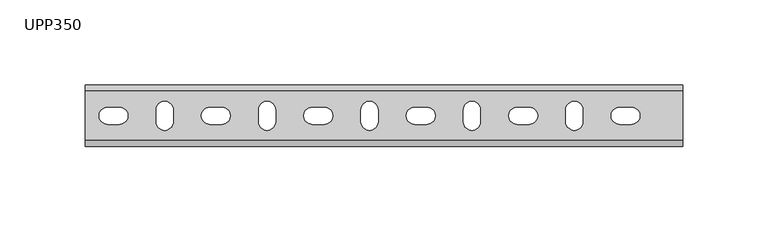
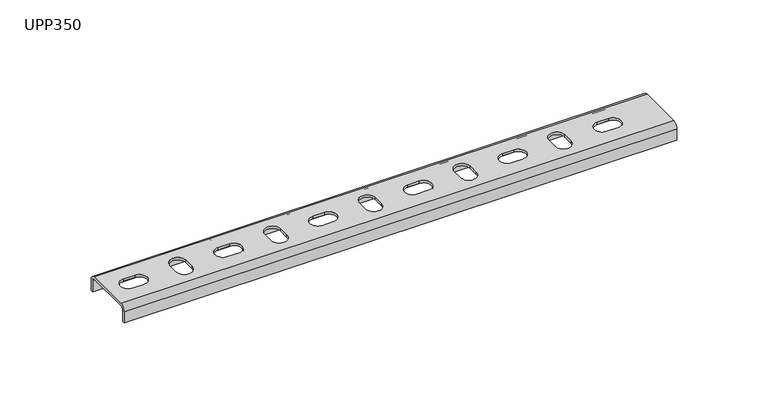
"""IFC4 building model written with IfcOpenShell, lengths in millimetres: proxy geometry, КМ Профиль_Универсальный поддерживающий профиль UPP : UPP350."""

from ifc_helpers import new_model, si_unit, frame, origin, place, context, project, spatial, polyline, circle_curve, source, transform, mapped, element, save
from ifc_brep_helpers import plane_surface, cylinder_surface, revolved_surface, advanced_brep


def upp350_077b014d(model_context):
    return source(origin(), model_context, "Body", "AdvancedBrep", [
        advanced_brep(
        [(0.0, 16.5, -3.5), (0.0, 14.5, -1.5), (0.0, -14.5, -1.5), (0.0, -16.5, -3.5), (0.0, -16.5, -11.0), (0.0, -18.0, -11.0), (0.0, -18.0, -3.5), (0.0, -14.5, 0.0), (0.0, 14.5, 0.0), (0.0, 18.0, -3.5), (0.0, 18.0, -11.0), (0.0, 16.5, -11.0), (350.0, 14.5, -1.5), (350.0, 16.5, -3.5), (350.0, 16.5, -11.0), (350.0, 18.0, -11.0), (350.0, 18.0, -3.5), (350.0, 14.5, 0.0), (350.0, -14.5, 0.0), (350.0, -18.0, -3.5), (350.0, -18.0, -11.0), (350.0, -16.5, -11.0), (350.0, -16.5, -3.5), (350.0, -14.5, -1.5), (80.0, 5.0, -1.5), (73.0, 5.0, -1.5), (73.0, -5.0, -1.5), (80.0, -5.0, -1.5), (140.0, 5.0, -1.5), (133.0, 5.0, -1.5), (133.0, -5.0, -1.5), (140.0, -5.0, -1.5), (101.5, 3.5, -1.5), (101.5, -3.5, -1.5), (111.5, -3.5, -1.5), (111.5, 3.5, -1.5), (200.0, 5.0, -1.5), (193.0, 5.0, -1.5), (193.0, -5.0, -1.5), (200.0, -5.0, -1.5), (260.0, 5.0, -1.5), (253.0, 5.0, -1.5), (253.0, -5.0, -1.5), (260.0, -5.0, -1.5), (320.0, 5.0, -1.5), (313.0, 5.0, -1.5), (313.0, -5.0, -1.5), (320.0, -5.0, -1.5), (161.5, 3.5, -1.5), (161.5, -3.5, -1.5), (171.5, -3.5, -1.5), (171.5, 3.5, -1.5), (221.5, 3.5, -1.5), (221.5, -3.5, -1.5), (231.5, -3.5, -1.5), (231.5, 3.5, -1.5), (281.5, 3.5, -1.5), (281.5, -3.5, -1.5), (291.5, -3.5, -1.5), (291.5, 3.5, -1.5), (41.5, 3.5, -1.5), (41.5, -3.5, -1.5), (51.5, -3.5, -1.5), (51.5, 3.5, -1.5), (20.0, 5.0, -1.5), (13.0, 5.0, -1.5), (13.0, -5.0, -1.5), (20.0, -5.0, -1.5), (73.0, 5.0, 0.0), (80.0, 5.0, 0.0), (80.0, -5.0, 0.0), (73.0, -5.0, 0.0), (133.0, 5.0, 0.0), (140.0, 5.0, 0.0), (140.0, -5.0, 0.0), (133.0, -5.0, 0.0), (101.5, -3.5, 0.0), (101.5, 3.5, 0.0), (111.5, 3.5, 0.0), (111.5, -3.5, 0.0), (193.0, 5.0, 0.0), (200.0, 5.0, 0.0), (200.0, -5.0, 0.0), (193.0, -5.0, 0.0), (253.0, 5.0, 0.0), (260.0, 5.0, 0.0), (260.0, -5.0, 0.0), (253.0, -5.0, 0.0), (313.0, 5.0, 0.0), (320.0, 5.0, 0.0), (320.0, -5.0, 0.0), (313.0, -5.0, 0.0), (161.5, -3.5, 0.0), (161.5, 3.5, 0.0), (171.5, 3.5, 0.0), (171.5, -3.5, 0.0), (221.5, -3.5, 0.0), (221.5, 3.5, 0.0), (231.5, 3.5, 0.0), (231.5, -3.5, 0.0), (281.5, -3.5, 0.0), (281.5, 3.5, 0.0), (291.5, 3.5, 0.0), (291.5, -3.5, 0.0), (41.5, -3.5, 0.0), (41.5, 3.5, 0.0), (51.5, 3.5, 0.0), (51.5, -3.5, 0.0), (13.0, 5.0, 0.0), (20.0, 5.0, 0.0), (20.0, -5.0, 0.0), (13.0, -5.0, 0.0)],
        [
            (0, 1, circle_curve(frame((0.0, 14.5, -3.5), z_axis=(1.0, 0.0, 0.0), x_axis=(0.0, 1.0, 0.0)), 2.0)),
            (1, 2),
            (2, 3, circle_curve(frame((0.0, -14.5, -3.5), z_axis=(1.0, 0.0, 0.0), x_axis=(0.0, 1.0, 0.0)), 2.0)),
            (3, 4),
            (4, 5),
            (5, 6),
            (6, 7, circle_curve(frame((0.0, -14.5, -3.5), z_axis=(-1.0, 0.0, 0.0), x_axis=(0.0, 1.0, 0.0)), 3.5)),
            (7, 8),
            (8, 9, circle_curve(frame((0.0, 14.5, -3.5), z_axis=(-1.0, 0.0, 0.0), x_axis=(0.0, 1.0, 0.0)), 3.5)),
            (9, 10),
            (10, 11),
            (11, 0),
            (12, 13, circle_curve(frame((350.0, 14.5, -3.5), z_axis=(-1.0, 0.0, 0.0), x_axis=(0.0, 1.0, 0.0)), 2.0)),
            (13, 14),
            (14, 15),
            (15, 16),
            (16, 17, circle_curve(frame((350.0, 14.5, -3.5), z_axis=(1.0, 0.0, 0.0), x_axis=(0.0, 1.0, 0.0)), 3.5)),
            (17, 18),
            (18, 19, circle_curve(frame((350.0, -14.5, -3.5), z_axis=(1.0, 0.0, 0.0), x_axis=(0.0, 1.0, 0.0)), 3.5)),
            (19, 20),
            (20, 21),
            (21, 22),
            (22, 23, circle_curve(frame((350.0, -14.5, -3.5), z_axis=(-1.0, 0.0, 0.0), x_axis=(0.0, 1.0, 0.0)), 2.0)),
            (23, 12),
            (0, 13),
            (12, 1),
            (23, 2),
            (24, 25),
            (25, 26, circle_curve(frame((73.0, 0.0, -1.5), z_axis=(0.0, 0.0, 1.0), x_axis=(1.0, 0.0, 0.0)), 5.0)),
            (26, 27),
            (27, 24, circle_curve(frame((80.0, 0.0, -1.5), z_axis=(0.0, 0.0, 1.0), x_axis=(1.0, 0.0, 0.0)), 5.0)),
            (28, 29),
            (29, 30, circle_curve(frame((133.0, 0.0, -1.5), z_axis=(0.0, 0.0, 1.0), x_axis=(1.0, 0.0, 0.0)), 5.0)),
            (30, 31),
            (31, 28, circle_curve(frame((140.0, 0.0, -1.5), z_axis=(0.0, 0.0, 1.0), x_axis=(1.0, 0.0, 0.0)), 5.0)),
            (32, 33),
            (33, 34, circle_curve(frame((106.5, -3.5, -1.5), z_axis=(0.0, 0.0, 1.0), x_axis=(0.0, 1.0, 0.0)), 5.0)),
            (34, 35),
            (35, 32, circle_curve(frame((106.5, 3.5, -1.5), z_axis=(0.0, 0.0, 1.0), x_axis=(0.0, 1.0, 0.0)), 5.0)),
            (36, 37),
            (37, 38, circle_curve(frame((193.0, 0.0, -1.5), z_axis=(0.0, 0.0, 1.0), x_axis=(1.0, 0.0, 0.0)), 5.0)),
            (38, 39),
            (39, 36, circle_curve(frame((200.0, 0.0, -1.5), z_axis=(0.0, 0.0, 1.0), x_axis=(1.0, 0.0, 0.0)), 5.0)),
            (40, 41),
            (41, 42, circle_curve(frame((253.0, 0.0, -1.5), z_axis=(0.0, 0.0, 1.0), x_axis=(1.0, 0.0, 0.0)), 5.0)),
            (42, 43),
            (43, 40, circle_curve(frame((260.0, 0.0, -1.5), z_axis=(0.0, 0.0, 1.0), x_axis=(1.0, 0.0, 0.0)), 5.0)),
            (44, 45),
            (45, 46, circle_curve(frame((313.0, 0.0, -1.5), z_axis=(0.0, 0.0, 1.0), x_axis=(1.0, 0.0, 0.0)), 5.0)),
            (46, 47),
            (47, 44, circle_curve(frame((320.0, 0.0, -1.5), z_axis=(0.0, 0.0, 1.0), x_axis=(1.0, 0.0, 0.0)), 5.0)),
            (48, 49),
            (49, 50, circle_curve(frame((166.5, -3.5, -1.5), z_axis=(0.0, 0.0, 1.0), x_axis=(0.0, 1.0, 0.0)), 5.0)),
            (50, 51),
            (51, 48, circle_curve(frame((166.5, 3.5, -1.5), z_axis=(0.0, 0.0, 1.0), x_axis=(0.0, 1.0, 0.0)), 5.0)),
            (52, 53),
            (53, 54, circle_curve(frame((226.5, -3.5, -1.5), z_axis=(0.0, 0.0, 1.0), x_axis=(0.0, 1.0, 0.0)), 5.0)),
            (54, 55),
            (55, 52, circle_curve(frame((226.5, 3.5, -1.5), z_axis=(0.0, 0.0, 1.0), x_axis=(0.0, 1.0, 0.0)), 5.0)),
            (56, 57),
            (57, 58, circle_curve(frame((286.5, -3.5, -1.5), z_axis=(0.0, 0.0, 1.0), x_axis=(0.0, 1.0, 0.0)), 5.0)),
            (58, 59),
            (59, 56, circle_curve(frame((286.5, 3.5, -1.5), z_axis=(0.0, 0.0, 1.0), x_axis=(0.0, 1.0, 0.0)), 5.0)),
            (60, 61),
            (61, 62, circle_curve(frame((46.5, -3.5, -1.5), z_axis=(0.0, 0.0, 1.0), x_axis=(0.0, 1.0, 0.0)), 5.0)),
            (62, 63),
            (63, 60, circle_curve(frame((46.5, 3.5, -1.5), z_axis=(0.0, 0.0, 1.0), x_axis=(0.0, 1.0, 0.0)), 5.0)),
            (64, 65),
            (65, 66, circle_curve(frame((13.0, 0.0, -1.5), z_axis=(0.0, 0.0, 1.0), x_axis=(1.0, 0.0, 0.0)), 5.0)),
            (66, 67),
            (67, 64, circle_curve(frame((20.0, 0.0, -1.5), z_axis=(0.0, 0.0, 1.0), x_axis=(1.0, 0.0, 0.0)), 5.0)),
            (22, 3),
            (21, 4),
            (20, 5),
            (19, 6),
            (18, 7),
            (17, 8),
            (68, 69),
            (69, 70, circle_curve(frame((80.0, 0.0, 0.0), z_axis=(0.0, 0.0, -1.0), x_axis=(1.0, 0.0, 0.0)), 5.0)),
            (70, 71),
            (71, 68, circle_curve(frame((73.0, 0.0, 0.0), z_axis=(0.0, 0.0, -1.0), x_axis=(1.0, 0.0, 0.0)), 5.0)),
            (72, 73),
            (73, 74, circle_curve(frame((140.0, 0.0, 0.0), z_axis=(0.0, 0.0, -1.0), x_axis=(1.0, 0.0, 0.0)), 5.0)),
            (74, 75),
            (75, 72, circle_curve(frame((133.0, 0.0, 0.0), z_axis=(0.0, 0.0, -1.0), x_axis=(1.0, 0.0, 0.0)), 5.0)),
            (76, 77),
            (77, 78, circle_curve(frame((106.5, 3.5, 0.0), z_axis=(0.0, 0.0, -1.0), x_axis=(0.0, 1.0, 0.0)), 5.0)),
            (78, 79),
            (79, 76, circle_curve(frame((106.5, -3.5, 0.0), z_axis=(0.0, 0.0, -1.0), x_axis=(0.0, 1.0, 0.0)), 5.0)),
            (80, 81),
            (81, 82, circle_curve(frame((200.0, 0.0, 0.0), z_axis=(0.0, 0.0, -1.0), x_axis=(1.0, 0.0, 0.0)), 5.0)),
            (82, 83),
            (83, 80, circle_curve(frame((193.0, 0.0, 0.0), z_axis=(0.0, 0.0, -1.0), x_axis=(1.0, 0.0, 0.0)), 5.0)),
            (84, 85),
            (85, 86, circle_curve(frame((260.0, 0.0, 0.0), z_axis=(0.0, 0.0, -1.0), x_axis=(1.0, 0.0, 0.0)), 5.0)),
            (86, 87),
            (87, 84, circle_curve(frame((253.0, 0.0, 0.0), z_axis=(0.0, 0.0, -1.0), x_axis=(1.0, 0.0, 0.0)), 5.0)),
            (88, 89),
            (89, 90, circle_curve(frame((320.0, 0.0, 0.0), z_axis=(0.0, 0.0, -1.0), x_axis=(1.0, 0.0, 0.0)), 5.0)),
            (90, 91),
            (91, 88, circle_curve(frame((313.0, 0.0, 0.0), z_axis=(0.0, 0.0, -1.0), x_axis=(1.0, 0.0, 0.0)), 5.0)),
            (92, 93),
            (93, 94, circle_curve(frame((166.5, 3.5, 0.0), z_axis=(0.0, 0.0, -1.0), x_axis=(0.0, 1.0, 0.0)), 5.0)),
            (94, 95),
            (95, 92, circle_curve(frame((166.5, -3.5, 0.0), z_axis=(0.0, 0.0, -1.0), x_axis=(0.0, 1.0, 0.0)), 5.0)),
            (96, 97),
            (97, 98, circle_curve(frame((226.5, 3.5, 0.0), z_axis=(0.0, 0.0, -1.0), x_axis=(0.0, 1.0, 0.0)), 5.0)),
            (98, 99),
            (99, 96, circle_curve(frame((226.5, -3.5, 0.0), z_axis=(0.0, 0.0, -1.0), x_axis=(0.0, 1.0, 0.0)), 5.0)),
            (100, 101),
            (101, 102, circle_curve(frame((286.5, 3.5, 0.0), z_axis=(0.0, 0.0, -1.0), x_axis=(0.0, 1.0, 0.0)), 5.0)),
            (102, 103),
            (103, 100, circle_curve(frame((286.5, -3.5, 0.0), z_axis=(0.0, 0.0, -1.0), x_axis=(0.0, 1.0, 0.0)), 5.0)),
            (104, 105),
            (105, 106, circle_curve(frame((46.5, 3.5, 0.0), z_axis=(0.0, 0.0, -1.0), x_axis=(0.0, 1.0, 0.0)), 5.0)),
            (106, 107),
            (107, 104, circle_curve(frame((46.5, -3.5, 0.0), z_axis=(0.0, 0.0, -1.0), x_axis=(0.0, 1.0, 0.0)), 5.0)),
            (108, 109),
            (109, 110, circle_curve(frame((20.0, 0.0, 0.0), z_axis=(0.0, 0.0, -1.0), x_axis=(1.0, 0.0, 0.0)), 5.0)),
            (110, 111),
            (111, 108, circle_curve(frame((13.0, 0.0, 0.0), z_axis=(0.0, 0.0, -1.0), x_axis=(1.0, 0.0, 0.0)), 5.0)),
            (16, 9),
            (15, 10),
            (14, 11),
            (68, 25),
            (24, 69),
            (71, 26),
            (70, 27),
            (72, 29),
            (28, 73),
            (75, 30),
            (74, 31),
            (76, 33),
            (32, 77),
            (79, 34),
            (78, 35),
            (80, 37),
            (36, 81),
            (83, 38),
            (82, 39),
            (84, 41),
            (40, 85),
            (87, 42),
            (86, 43),
            (88, 45),
            (44, 89),
            (91, 46),
            (90, 47),
            (92, 49),
            (48, 93),
            (95, 50),
            (94, 51),
            (96, 53),
            (52, 97),
            (99, 54),
            (98, 55),
            (100, 57),
            (56, 101),
            (103, 58),
            (102, 59),
            (104, 61),
            (60, 105),
            (107, 62),
            (106, 63),
            (108, 65),
            (64, 109),
            (111, 66),
            (110, 67),
        ],
        [
            plane_surface(frame((0.0, 0.0, 0.0), z_axis=(-1.0, 0.0, 0.0), x_axis=(0.0, 0.0, 1.0))),
            plane_surface(frame((350.0, 0.0, 0.0), z_axis=(1.0, 0.0, 0.0), x_axis=(0.0, 0.0, 1.0))),
            revolved_surface(polyline([(350.0, 16.5, -3.5), (0.0, 16.5, -3.5)]), (0.0, 14.5, -3.5), (1.0, 0.0, 0.0)),
            plane_surface(frame((0.0, 14.5, -1.5), z_axis=(0.0, 0.0, -1.0), x_axis=(1.0, 0.0, 0.0))),
            revolved_surface(polyline([(350.0, -12.5, -3.5), (0.0, -12.5, -3.5)]), (0.0, -14.5, -3.5), (1.0, 0.0, 0.0)),
            plane_surface(frame((0.0, -16.5, -3.5), z_axis=(0.0, 1.0, 0.0), x_axis=(1.0, 0.0, 0.0))),
            plane_surface(frame((0.0, -16.5, -11.0), z_axis=(0.0, 0.0, -1.0), x_axis=(1.0, 0.0, 0.0))),
            plane_surface(frame((0.0, -18.0, -11.0), z_axis=(0.0, -1.0, 0.0), x_axis=(1.0, 0.0, 0.0))),
            cylinder_surface(frame((0.0, -14.5, -3.5), z_axis=(-1.0, 0.0, 0.0), x_axis=(0.0, 1.0, 0.0)), 3.5),
            plane_surface(frame((0.0, -14.5, 0.0), z_axis=(0.0, 0.0, 1.0), x_axis=(1.0, 0.0, 0.0))),
            cylinder_surface(frame((0.0, 14.5, -3.5), z_axis=(-1.0, 0.0, 0.0), x_axis=(0.0, 1.0, 0.0)), 3.5),
            plane_surface(frame((0.0, 18.0, -3.5), z_axis=(0.0, 1.0, 0.0), x_axis=(1.0, 0.0, 0.0))),
            plane_surface(frame((0.0, 18.0, -11.0), z_axis=(0.0, 0.0, -1.0), x_axis=(1.0, 0.0, 0.0))),
            plane_surface(frame((0.0, 16.5, -11.0), z_axis=(0.0, -1.0, 0.0), x_axis=(1.0, 0.0, 0.0))),
            plane_surface(frame((80.0, 5.0, 0.0), z_axis=(0.0, -1.0, 0.0), x_axis=(0.0, 0.0, -1.0))),
            revolved_surface(polyline([(78.0, 0.0, 0.0), (78.0, 0.0, -1.5)]), (73.0, 0.0, -1.5), (0.0, 0.0, 1.0)),
            plane_surface(frame((73.0, -5.0, 0.0), z_axis=(0.0, 1.0, 0.0), x_axis=(0.0, 0.0, -1.0))),
            revolved_surface(polyline([(85.0, 0.0, 0.0), (85.0, 0.0, -1.5)]), (80.0, 0.0, -1.5), (0.0, 0.0, 1.0)),
            plane_surface(frame((140.0, 5.0, 0.0), z_axis=(0.0, -1.0, 0.0), x_axis=(0.0, 0.0, -1.0))),
            revolved_surface(polyline([(138.0, 0.0, 0.0), (138.0, 0.0, -1.5)]), (133.0, 0.0, -1.5), (0.0, 0.0, 1.0)),
            plane_surface(frame((133.0, -5.0, 0.0), z_axis=(0.0, 1.0, 0.0), x_axis=(0.0, 0.0, -1.0))),
            revolved_surface(polyline([(145.0, 0.0, 0.0), (145.0, 0.0, -1.5)]), (140.0, 0.0, -1.5), (0.0, 0.0, 1.0)),
            plane_surface(frame((101.5, 3.5, 0.0), z_axis=(1.0, 0.0, 0.0), x_axis=(0.0, 0.0, -1.0))),
            revolved_surface(polyline([(106.5, 1.5, 0.0), (106.5, 1.5, -1.5)]), (106.5, -3.5, -1.5), (0.0, 0.0, 1.0)),
            plane_surface(frame((111.5, -3.5, 0.0), z_axis=(-1.0, 0.0, 0.0), x_axis=(0.0, 0.0, -1.0))),
            revolved_surface(polyline([(106.5, 8.5, 0.0), (106.5, 8.5, -1.5)]), (106.5, 3.5, -1.5), (0.0, 0.0, 1.0)),
            plane_surface(frame((200.0, 5.0, 0.0), z_axis=(0.0, -1.0, 0.0), x_axis=(0.0, 0.0, -1.0))),
            revolved_surface(polyline([(198.0, 0.0, 0.0), (198.0, 0.0, -1.5)]), (193.0, 0.0, -1.5), (0.0, 0.0, 1.0)),
            plane_surface(frame((193.0, -5.0, 0.0), z_axis=(0.0, 1.0, 0.0), x_axis=(0.0, 0.0, -1.0))),
            revolved_surface(polyline([(205.0, 0.0, 0.0), (205.0, 0.0, -1.5)]), (200.0, 0.0, -1.5), (0.0, 0.0, 1.0)),
            plane_surface(frame((260.0, 5.0, 0.0), z_axis=(0.0, -1.0, 0.0), x_axis=(0.0, 0.0, -1.0))),
            revolved_surface(polyline([(258.0, 0.0, 0.0), (258.0, 0.0, -1.5)]), (253.0, 0.0, -1.5), (0.0, 0.0, 1.0)),
            plane_surface(frame((253.0, -5.0, 0.0), z_axis=(0.0, 1.0, 0.0), x_axis=(0.0, 0.0, -1.0))),
            revolved_surface(polyline([(265.0, 0.0, 0.0), (265.0, 0.0, -1.5)]), (260.0, 0.0, -1.5), (0.0, 0.0, 1.0)),
            plane_surface(frame((320.0, 5.0, 0.0), z_axis=(0.0, -1.0, 0.0), x_axis=(0.0, 0.0, -1.0))),
            revolved_surface(polyline([(318.0, 0.0, 0.0), (318.0, 0.0, -1.5)]), (313.0, 0.0, -1.5), (0.0, 0.0, 1.0)),
            plane_surface(frame((313.0, -5.0, 0.0), z_axis=(0.0, 1.0, 0.0), x_axis=(0.0, 0.0, -1.0))),
            revolved_surface(polyline([(325.0, 0.0, 0.0), (325.0, 0.0, -1.5)]), (320.0, 0.0, -1.5), (0.0, 0.0, 1.0)),
            plane_surface(frame((161.5, 3.5, 0.0), z_axis=(1.0, 0.0, 0.0), x_axis=(0.0, 0.0, -1.0))),
            revolved_surface(polyline([(166.5, 1.5, 0.0), (166.5, 1.5, -1.5)]), (166.5, -3.5, -1.5), (0.0, 0.0, 1.0)),
            plane_surface(frame((171.5, -3.5, 0.0), z_axis=(-1.0, 0.0, 0.0), x_axis=(0.0, 0.0, -1.0))),
            revolved_surface(polyline([(166.5, 8.5, 0.0), (166.5, 8.5, -1.5)]), (166.5, 3.5, -1.5), (0.0, 0.0, 1.0)),
            plane_surface(frame((221.5, 3.5, 0.0), z_axis=(1.0, 0.0, 0.0), x_axis=(0.0, 0.0, -1.0))),
            revolved_surface(polyline([(226.5, 1.5, 0.0), (226.5, 1.5, -1.5)]), (226.5, -3.5, -1.5), (0.0, 0.0, 1.0)),
            plane_surface(frame((231.5, -3.5, 0.0), z_axis=(-1.0, 0.0, 0.0), x_axis=(0.0, 0.0, -1.0))),
            revolved_surface(polyline([(226.5, 8.5, 0.0), (226.5, 8.5, -1.5)]), (226.5, 3.5, -1.5), (0.0, 0.0, 1.0)),
            plane_surface(frame((281.5, 3.5, 0.0), z_axis=(1.0, 0.0, 0.0), x_axis=(0.0, 0.0, -1.0))),
            revolved_surface(polyline([(286.5, 1.5, 0.0), (286.5, 1.5, -1.5)]), (286.5, -3.5, -1.5), (0.0, 0.0, 1.0)),
            plane_surface(frame((291.5, -3.5, 0.0), z_axis=(-1.0, 0.0, 0.0), x_axis=(0.0, 0.0, -1.0))),
            revolved_surface(polyline([(286.5, 8.5, 0.0), (286.5, 8.5, -1.5)]), (286.5, 3.5, -1.5), (0.0, 0.0, 1.0)),
            plane_surface(frame((41.5, 3.5, 0.0), z_axis=(1.0, 0.0, 0.0), x_axis=(0.0, 0.0, -1.0))),
            revolved_surface(polyline([(46.5, 1.5, 0.0), (46.5, 1.5, -1.5)]), (46.5, -3.5, -1.5), (0.0, 0.0, 1.0)),
            plane_surface(frame((51.5, -3.5, 0.0), z_axis=(-1.0, 0.0, 0.0), x_axis=(0.0, 0.0, -1.0))),
            revolved_surface(polyline([(46.5, 8.5, 0.0), (46.5, 8.5, -1.5)]), (46.5, 3.5, -1.5), (0.0, 0.0, 1.0)),
            plane_surface(frame((20.0, 5.0, 0.0), z_axis=(0.0, -1.0, 0.0), x_axis=(0.0, 0.0, -1.0))),
            revolved_surface(polyline([(18.0, 0.0, 0.0), (18.0, 0.0, -1.5)]), (13.0, 0.0, -1.5), (0.0, 0.0, 1.0)),
            plane_surface(frame((13.0, -5.0, 0.0), z_axis=(0.0, 1.0, 0.0), x_axis=(0.0, 0.0, -1.0))),
            revolved_surface(polyline([(25.0, 0.0, 0.0), (25.0, 0.0, -1.5)]), (20.0, 0.0, -1.5), (0.0, 0.0, 1.0)),
        ],
        [
            (0, [[1, 2, 3, 4, 5, 6, 7, 8, 9, 10, 11, 12]]),
            (1, [[13, 14, 15, 16, 17, 18, 19, 20, 21, 22, 23, 24]]),
            (2, [[-1, 25, -13, 26]]),
            (3, [[-2, -26, -24, 27], [28, 29, 30, 31], [32, 33, 34, 35], [36, 37, 38, 39], [40, 41, 42, 43], [44, 45, 46, 47], [48, 49, 50, 51], [52, 53, 54, 55], [56, 57, 58, 59], [60, 61, 62, 63], [64, 65, 66, 67], [68, 69, 70, 71]]),
            (4, [[-3, -27, -23, 72]]),
            (5, [[-4, -72, -22, 73]]),
            (6, [[-5, -73, -21, 74]]),
            (7, [[-6, -74, -20, 75]]),
            (8, [[-7, -75, -19, 76]]),
            (9, [[-8, -76, -18, 77], [78, 79, 80, 81], [82, 83, 84, 85], [86, 87, 88, 89], [90, 91, 92, 93], [94, 95, 96, 97], [98, 99, 100, 101], [102, 103, 104, 105], [106, 107, 108, 109], [110, 111, 112, 113], [114, 115, 116, 117], [118, 119, 120, 121]]),
            (10, [[-9, -77, -17, 122]]),
            (11, [[-10, -122, -16, 123]]),
            (12, [[-11, -123, -15, 124]]),
            (13, [[-12, -124, -14, -25]]),
            (14, [[125, -28, 126, -78]]),
            (15, [[-125, -81, 127, -29]]),
            (16, [[-127, -80, 128, -30]]),
            (17, [[-126, -31, -128, -79]]),
            (18, [[129, -32, 130, -82]]),
            (19, [[-129, -85, 131, -33]]),
            (20, [[-131, -84, 132, -34]]),
            (21, [[-130, -35, -132, -83]]),
            (22, [[133, -36, 134, -86]]),
            (23, [[-133, -89, 135, -37]]),
            (24, [[-135, -88, 136, -38]]),
            (25, [[-134, -39, -136, -87]]),
            (26, [[137, -40, 138, -90]]),
            (27, [[-137, -93, 139, -41]]),
            (28, [[-139, -92, 140, -42]]),
            (29, [[-138, -43, -140, -91]]),
            (30, [[141, -44, 142, -94]]),
            (31, [[-141, -97, 143, -45]]),
            (32, [[-143, -96, 144, -46]]),
            (33, [[-142, -47, -144, -95]]),
            (34, [[145, -48, 146, -98]]),
            (35, [[-145, -101, 147, -49]]),
            (36, [[-147, -100, 148, -50]]),
            (37, [[-146, -51, -148, -99]]),
            (38, [[149, -52, 150, -102]]),
            (39, [[-149, -105, 151, -53]]),
            (40, [[-151, -104, 152, -54]]),
            (41, [[-150, -55, -152, -103]]),
            (42, [[153, -56, 154, -106]]),
            (43, [[-153, -109, 155, -57]]),
            (44, [[-155, -108, 156, -58]]),
            (45, [[-154, -59, -156, -107]]),
            (46, [[157, -60, 158, -110]]),
            (47, [[-157, -113, 159, -61]]),
            (48, [[-159, -112, 160, -62]]),
            (49, [[-158, -63, -160, -111]]),
            (50, [[161, -64, 162, -114]]),
            (51, [[-161, -117, 163, -65]]),
            (52, [[-163, -116, 164, -66]]),
            (53, [[-162, -67, -164, -115]]),
            (54, [[165, -68, 166, -118]]),
            (55, [[-165, -121, 167, -69]]),
            (56, [[-167, -120, 168, -70]]),
            (57, [[-166, -71, -168, -119]]),
        ],
    ),
    ])


if __name__ == "__main__":
    model = new_model("IFC4")
    model_context = context("Model", 3, world=origin())
    ifc_project = project(units=[si_unit("LENGTHUNIT", "METRE", prefix="MILLI")], contexts=[model_context])
    site = spatial("IfcSite", under=ifc_project)
    building = spatial("IfcBuilding", under=site)
    placement = place(None, origin())
    upp350_shape = upp350_077b014d(model_context)
    element("IfcBuildingElementProxy", 1, Name="КМ Профиль_Универсальный поддерживающий профиль UPP : UPP350", ObjectType="КМ Профиль_Универсальный поддерживающий профиль UPP : UPP350", at=placement, inside=building, context=model_context, shape_type="MappedRepresentation", body=[
        mapped(upp350_shape, transform((0.0, 0.0, 0.0), x_axis=(1.0, 0.0, 0.0), y_axis=(0.0, 1.0, 0.0), z_axis=(0.0, 0.0, 1.0))),
    ])
    save(model, "model.ifc")
